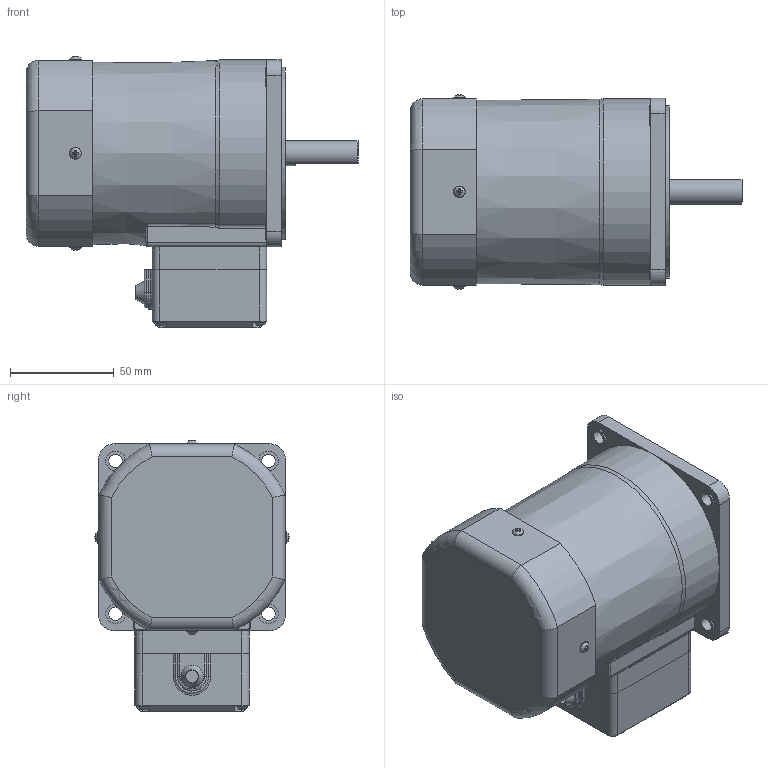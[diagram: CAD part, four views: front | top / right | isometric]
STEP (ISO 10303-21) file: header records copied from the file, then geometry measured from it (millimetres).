
FILE_DESCRIPTION((''),'2;1');
FILE_NAME('D:\김성묵\업무폴더\개발 파일\프로젝트 개발 AB등급\AC표준형 개발자료\90각 이하 표준형 개발\도면작성 자료\3D 도면\홈페이지용 3D 파일\60W MOTOR\T1 BOX TYPE\S9(I,R)60D-T1.stp','2015-03-26T18:33:14',('smkim'),(''),'Autodesk Inventor 2012','Autodesk Inventor 2012','');
FILE_SCHEMA(('AUTOMOTIVE_DESIGN { 1 0 10303 214 1 1 1 1 }'));
Length unit declared in the file: millimetre
Products named in the file (9): S9(I,R)60D-T1; S9I60GㅁTCE; FAN COVER; 552300620; 80 각 T1 BOX_CORD BUSH; 25W T1 BOX CORD BUSH G; 80각 T1 BOX; S9I60D
Assembly tree (15 placements, depth 3):
  S9(I,R)60D-T1
    S9I60GㅁTCE
    FAN COVER
      FAN COVER
      552300620  x4
    80 각 T1 BOX_CORD BUSH
      25W T1 BOX CORD BUSH G
      80각 T1 BOX
    552300620  x4
    S9I60D
Bounding box: 159.8 x 93.49 x 130.75 mm (x, y, z)
Volume: 1013100.4 mm3; surface area: 109232.7 mm2
Topology: 14 solids, 14 shells, 379 faces, 905 edges, 579 vertices
Faces by surface type: plane 218, cylinder 93, torus 27, bspline 26, cone 15
Full cylindrical faces by diameter (mm): 3 x12, 3.5 x4, 5.6 x8, 6.5 x4, 8 x1, 9.5 x4, 12 x1, 40 x1, 83 x1, 86 x1
Entity records: 7521 total; most frequent: CARTESIAN_POINT 1988, DIRECTION 1113, ORIENTED_EDGE 1026, EDGE_CURVE 513, AXIS2_PLACEMENT_3D 425, VERTEX_POINT 351, EDGE_LOOP 298, VECTOR 263
